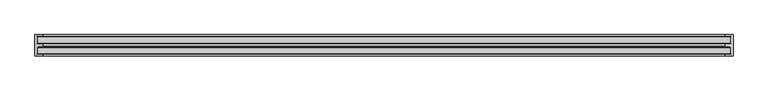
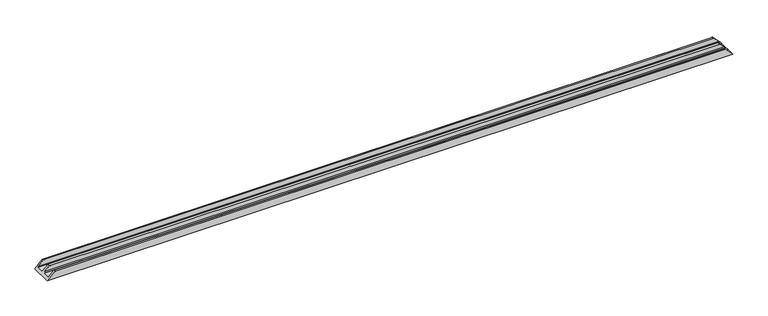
"""IFC4 building model written with IfcOpenShell, lengths in millimetres: proxy geometry, Weiku - Montante - Caixilho duplo 02.3.02.409 : Weiku - Montante - Caixilho duplo 02.3.02.409."""

from ifc_helpers import new_model, si_unit, frame, origin, place, context, project, spatial, ellipse_curve, source, transform, mapped, element, save
from ifc_brep_helpers import plane_surface, cylinder_surface, advanced_brep


def generic_models_4b40e7d8(model_context):
    return source(origin(), model_context, "Body", "AdvancedBrep", [
        advanced_brep(
        [(-2538.2, -9.8, 18.2), (2538.2, -9.8, 18.2), (2500.5, -9.8, 55.9), (-2500.5, -9.8, 55.9), (-2540.7000079, -63.85, 15.6999921), (2540.7000079, -63.85, 15.6999921), (2540.7000079, -15.05, 15.6999921), (-2540.7000079, -15.05, 15.6999921), (-2500.5000055, -69.1, 55.8999945), (2500.5000055, -69.1, 55.8999945), (2532.5700642, -69.1, 23.8299358), (-2532.5700642, -69.1, 23.8299358), (-2500.0000055, -86.65, 56.3999945), (2500.0000055, -86.65, 56.3999945), (2500.0000055, -69.6, 56.3999945), (-2500.0000055, -69.6, 56.3999945), (-2532.6236827, -87.15, 23.7763173), (2532.6236827, -87.15, 23.7763173), (2500.5000055, -87.15, 55.8999945), (-2500.5000055, -87.15, 55.8999945), (-2556.4, -156.2000166, 0.0), (-2556.4, 0.0, 0.0), (2556.4, 0.0, 0.0), (2556.4, -156.2000166, 0.0), (-2500.5, 0.0, 55.9), (2500.5, 0.0, 55.9), (-2500.0, -9.3, 56.4), (2500.0, -9.3, 56.4), (2500.0, -0.5, 56.4), (-2500.0, -0.5, 56.4), (-2500.5, -156.2000166, 55.9), (-2500.0, -155.7000166, 56.4), (-2500.0, -146.9000166, 56.4), (-2500.5, -146.4000166, 55.9), (-2538.2, -146.4000166, 18.2), (-2538.2, -141.1500166, 18.2), (-2540.7000079, -141.1500166, 15.6999921), (-2540.7000079, -92.3500166, 15.6999921), (-2538.2000178, -92.3500166, 18.1999822), (-2538.2, -63.85, 18.2), (-2538.2, -15.05, 18.2), (2538.2, -15.05, 18.2), (2538.2, -63.85, 18.2), (2538.2000178, -92.3500166, 18.1999822), (2540.7000079, -92.3500166, 15.6999921), (2540.7000079, -141.1500166, 15.6999921), (2538.2, -141.1500166, 18.2), (2538.2, -146.4000166, 18.2), (2500.5, -146.4000166, 55.9), (2500.0, -146.9000166, 56.4), (2500.0, -155.7000166, 56.4), (2500.5, -156.2000166, 55.9)],
        [
            (0, 1),
            (1, 2),
            (2, 3),
            (3, 0),
            (4, 5),
            (5, 6),
            (6, 7),
            (7, 4),
            (8, 9),
            (9, 10),
            (10, 11),
            (11, 8),
            (12, 13),
            (13, 14),
            (14, 15),
            (15, 12),
            (16, 17),
            (17, 18),
            (18, 19),
            (19, 16),
            (20, 21),
            (21, 22),
            (22, 23),
            (23, 20),
            (21, 24),
            (24, 25),
            (25, 22),
            (26, 27),
            (27, 28),
            (28, 29),
            (29, 26),
            (3, 26, ellipse_curve(frame((-2500.5, -9.3, 55.9), z_axis=(-0.7071067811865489, 0.0, 0.7071067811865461), x_axis=(-0.7071067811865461, 0.0, -0.7071067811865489)), 0.7071068, 0.5)),
            (29, 24, ellipse_curve(frame((-2500.5, -0.5, 55.9), z_axis=(-0.7071067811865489, 0.0, 0.7071067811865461), x_axis=(-0.7071067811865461, 0.0, -0.7071067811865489)), 0.7071068, 0.5)),
            (20, 30),
            (30, 31, ellipse_curve(frame((-2500.5, -155.7000166, 55.9), z_axis=(-0.7071067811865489, 0.0, 0.7071067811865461), x_axis=(-0.7071067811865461, 0.0, -0.7071067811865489)), 0.7071068, 0.5)),
            (31, 32),
            (32, 33, ellipse_curve(frame((-2500.5, -146.9000166, 55.9), z_axis=(-0.7071067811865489, 0.0, 0.7071067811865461), x_axis=(-0.7071067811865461, 0.0, -0.7071067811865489)), 0.7071068, 0.5)),
            (33, 34),
            (34, 35),
            (35, 36),
            (36, 37),
            (37, 38),
            (38, 16),
            (19, 12, ellipse_curve(frame((-2500.5000055, -86.65, 55.8999945), z_axis=(-0.7071067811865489, 0.0, 0.7071067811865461), x_axis=(-0.7071067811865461, 0.0, -0.7071067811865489)), 0.7071068, 0.5)),
            (15, 8, ellipse_curve(frame((-2500.5000055, -69.6, 55.8999945), z_axis=(-0.7071067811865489, 0.0, 0.7071067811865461), x_axis=(-0.7071067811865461, 0.0, -0.7071067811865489)), 0.7071068, 0.5)),
            (11, 39),
            (39, 4),
            (7, 40),
            (40, 0),
            (1, 41),
            (41, 6),
            (5, 42),
            (42, 10),
            (9, 14, ellipse_curve(frame((2500.5000055, -69.6, 55.8999945), z_axis=(0.7071067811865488, 0.0, 0.7071067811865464), x_axis=(-0.7071067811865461, 0.0, 0.7071067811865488)), 0.7071068, 0.5)),
            (13, 18, ellipse_curve(frame((2500.5000055, -86.65, 55.8999945), z_axis=(0.7071067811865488, 0.0, 0.7071067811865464), x_axis=(-0.7071067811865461, 0.0, 0.7071067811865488)), 0.7071068, 0.5)),
            (17, 43),
            (43, 44),
            (44, 45),
            (45, 46),
            (46, 47),
            (47, 48),
            (48, 49, ellipse_curve(frame((2500.5, -146.9000166, 55.9), z_axis=(0.7071067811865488, 0.0, 0.7071067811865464), x_axis=(-0.7071067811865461, 0.0, 0.7071067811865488)), 0.7071068, 0.5)),
            (49, 50),
            (50, 51, ellipse_curve(frame((2500.5, -155.7000166, 55.9), z_axis=(0.7071067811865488, 0.0, 0.7071067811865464), x_axis=(-0.7071067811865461, 0.0, 0.7071067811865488)), 0.7071068, 0.5)),
            (51, 23),
            (25, 28, ellipse_curve(frame((2500.5, -0.5, 55.9), z_axis=(0.7071067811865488, 0.0, 0.7071067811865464), x_axis=(-0.7071067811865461, 0.0, 0.7071067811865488)), 0.7071068, 0.5)),
            (27, 2, ellipse_curve(frame((2500.5, -9.3, 55.9), z_axis=(0.7071067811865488, 0.0, 0.7071067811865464), x_axis=(-0.7071067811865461, 0.0, 0.7071067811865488)), 0.7071068, 0.5)),
            (40, 41),
            (39, 42),
            (38, 43),
            (37, 44),
            (36, 45),
            (35, 46),
            (34, 47),
            (33, 48),
            (31, 50),
            (49, 32),
            (30, 51),
        ],
        [
            plane_surface(frame((-2556.4, -9.8, 55.9), z_axis=(0.0, -1.0, 0.0), x_axis=(1.0, 0.0, 0.0))),
            plane_surface(frame((-2556.4, -15.05, 15.6999921), z_axis=(0.0, 0.0, 1.0), x_axis=(1.0, 0.0, 0.0))),
            plane_surface(frame((-2556.4, -69.1, 23.8299358), z_axis=(0.0, 1.0, 0.0), x_axis=(1.0, 0.0, 0.0))),
            plane_surface(frame((-2556.4, -69.6, 56.3999945), z_axis=(0.0, 0.0, 1.0), x_axis=(1.0, 0.0, 0.0))),
            plane_surface(frame((-2556.4, -87.15, 55.8999945), z_axis=(0.0, -1.0, 0.0), x_axis=(1.0, 0.0, 0.0))),
            plane_surface(frame((-2556.4, -156.2000166, 0.0), z_axis=(0.0, 0.0, -1.0), x_axis=(1.0, 0.0, 0.0))),
            plane_surface(frame((-2556.4, 0.0, 0.0), z_axis=(0.0, 1.0, 0.0), x_axis=(1.0, 0.0, 0.0))),
            plane_surface(frame((-2556.4, -0.5, 56.4), z_axis=(0.0, 0.0, 1.0), x_axis=(1.0, 0.0, 0.0))),
            plane_surface(frame((-2556.4, 0.0, 0.0), z_axis=(-0.7071067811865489, 0.0, 0.7071067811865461), x_axis=(0.0, -1.0, 0.0))),
            plane_surface(frame((2496.4, 0.0, 60.0), z_axis=(0.7071067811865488, 0.0, 0.7071067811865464), x_axis=(0.0, -1.0, 0.0))),
            plane_surface(frame((-2556.4, -9.8, 18.2), z_axis=(0.0, 0.0, 1.0), x_axis=(1.0, 0.0, 0.0))),
            plane_surface(frame((-2556.4, -15.05, 18.2), z_axis=(0.0, -1.0, 0.0), x_axis=(1.0, 0.0, 0.0))),
            plane_surface(frame((-2556.4, -63.85, 15.6999921), z_axis=(0.0, 1.0, 0.0), x_axis=(1.0, 0.0, 0.0))),
            plane_surface(frame((-2556.4, -63.85, 18.2), z_axis=(0.0, 0.7313537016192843, 0.6819983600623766), x_axis=(1.0, 0.0, 0.0))),
            cylinder_surface(frame((-2556.4, -86.65, 55.8999945), z_axis=(-1.0, 0.0, 0.0), x_axis=(0.0, -1.0, 0.0)), 0.5),
            cylinder_surface(frame((-2556.4, -0.5, 55.9), z_axis=(-1.0, 0.0, 0.0), x_axis=(0.0, -1.0, 0.0)), 0.5),
            plane_surface(frame((-2556.4, -87.15, 23.7763173), z_axis=(0.0, -0.7313537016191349, 0.6819983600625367), x_axis=(1.0, 0.0, 0.0))),
            plane_surface(frame((-2556.4, -92.3500166, 18.1999822), z_axis=(0.0, -1.0, 0.0), x_axis=(1.0, 0.0, 0.0))),
            plane_surface(frame((-2556.4, -92.3500166, 15.6999921), z_axis=(0.0, 0.0, 1.0), x_axis=(1.0, 0.0, 0.0))),
            plane_surface(frame((-2556.4, -141.1500166, 15.6999921), z_axis=(0.0, 1.0, 0.0), x_axis=(1.0, 0.0, 0.0))),
            plane_surface(frame((-2556.4, -141.1500166, 18.2), z_axis=(0.0, 0.0, 1.0), x_axis=(1.0, 0.0, 0.0))),
            plane_surface(frame((-2556.4, -146.4000166, 18.2), z_axis=(0.0, 1.0, 0.0), x_axis=(1.0, 0.0, 0.0))),
            plane_surface(frame((-2556.4, -146.9000166, 56.4), z_axis=(0.0, 0.0, 1.0), x_axis=(1.0, 0.0, 0.0))),
            cylinder_surface(frame((-2556.4, -155.7000166, 55.9), z_axis=(-1.0, 0.0, 0.0), x_axis=(0.0, 1.0, 0.0)), 0.5),
            plane_surface(frame((-2556.4, -156.2000166, 55.9), z_axis=(0.0, -1.0, 0.0), x_axis=(1.0, 0.0, 0.0))),
            cylinder_surface(frame((-2556.4, -9.3, 55.9), z_axis=(-1.0, 0.0, 0.0), x_axis=(0.0, -1.0, 0.0)), 0.5),
            cylinder_surface(frame((-2556.4, -69.6, 55.8999945), z_axis=(-1.0, 0.0, 0.0), x_axis=(0.0, -1.0, 0.0)), 0.5),
            cylinder_surface(frame((-2556.4, -146.9000166, 55.9), z_axis=(-1.0, 0.0, 0.0), x_axis=(0.0, -1.0, 0.0)), 0.5),
        ],
        [
            (0, [[1, 2, 3, 4]]),
            (1, [[5, 6, 7, 8]]),
            (2, [[9, 10, 11, 12]]),
            (3, [[13, 14, 15, 16]]),
            (4, [[17, 18, 19, 20]]),
            (5, [[21, 22, 23, 24]]),
            (6, [[25, 26, 27, -22]]),
            (7, [[28, 29, 30, 31]]),
            (8, [[32, -31, 33, -25, -21, 34, 35, 36, 37, 38, 39, 40, 41, 42, 43, -20, 44, -16, 45, -12, 46, 47, -8, 48, 49, -4]]),
            (9, [[50, 51, -6, 52, 53, -10, 54, -14, 55, -18, 56, 57, 58, 59, 60, 61, 62, 63, 64, 65, -23, -27, 66, -29, 67, -2]]),
            (10, [[68, -50, -1, -49]]),
            (11, [[-7, -51, -68, -48]]),
            (12, [[69, -52, -5, -47]]),
            (13, [[-11, -53, -69, -46]]),
            (14, [[-19, -55, -13, -44]]),
            (15, [[-30, -66, -26, -33]]),
            (16, [[70, -56, -17, -43]]),
            (17, [[71, -57, -70, -42]]),
            (18, [[72, -58, -71, -41]]),
            (19, [[73, -59, -72, -40]]),
            (20, [[74, -60, -73, -39]]),
            (21, [[75, -61, -74, -38]]),
            (22, [[76, -63, 77, -36]]),
            (23, [[78, -64, -76, -35]]),
            (24, [[-65, -78, -34, -24]]),
            (25, [[-3, -67, -28, -32]]),
            (26, [[-15, -54, -9, -45]]),
            (27, [[-77, -62, -75, -37]]),
        ],
    ),
    ])


if __name__ == "__main__":
    model = new_model("IFC4")
    model_context = context("Model", 3, world=origin())
    ifc_project = project(units=[si_unit("LENGTHUNIT", "METRE", prefix="MILLI")], contexts=[model_context])
    site = spatial("IfcSite", under=ifc_project)
    building = spatial("IfcBuilding", under=site)
    placement = place(None, origin())
    generic_models_shape = generic_models_4b40e7d8(model_context)
    element("IfcBuildingElementProxy", 1, Name="Weiku - Montante - Caixilho duplo 02.3.02.409 : Weiku - Montante - Caixilho duplo 02.3.02.409", ObjectType="Weiku - Montante - Caixilho duplo 02.3.02.409 : Weiku - Montante - Caixilho duplo 02.3.02.409", at=placement, inside=building, context=model_context, shape_type="MappedRepresentation", body=[
        mapped(generic_models_shape, transform((0.0, 0.0, 0.0), x_axis=(1.0, 0.0, 0.0), y_axis=(0.0, 1.0, 0.0), z_axis=(0.0, 0.0, 1.0))),
    ])
    save(model, "model.ifc")
